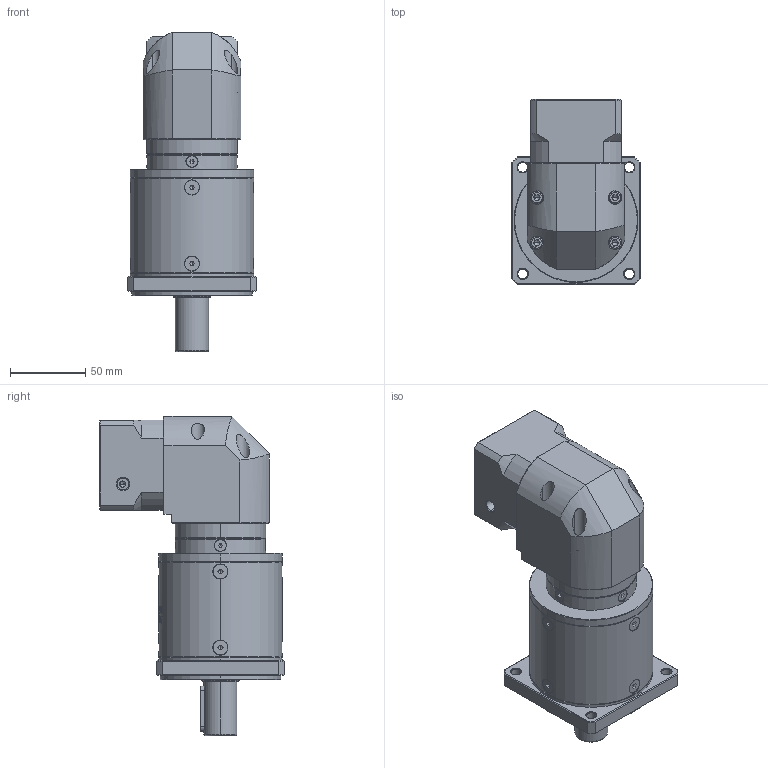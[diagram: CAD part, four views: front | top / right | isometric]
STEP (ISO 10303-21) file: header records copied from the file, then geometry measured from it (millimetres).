
FILE_DESCRIPTION (( 'STEP AP214' ), '1' );
FILE_NAME ('ZFR080-D22-L3-P2-14-50-70-M5.step', '2023-08-25T07:22:32', ( '' ), ( '' ), 'SwSTEP 2.0', 'SolidWorks 2016', '' );
FILE_SCHEMA (( 'AUTOMOTIVE_DESIGN' ));
Length unit declared in the file: millimetre
Products named in the file (1): ZFR080-D22-L3-P2-14-50-70-M5
Bounding box: 85 x 122.7 x 212 mm (x, y, z)
Volume: 890048.3 mm3; surface area: 107446.3 mm2
Topology: 17 solids, 18 shells, 2449 faces, 6385 edges, 4051 vertices
Faces by surface type: plane 1176, cylinder 450, bspline 406, cone 381, torus 36
Entity records: 127340 total; most frequent: CARTESIAN_POINT 45224, ORIENTED_EDGE 12678, DIRECTION 9783, EDGE_CURVE 6339, VERTEX_POINT 4051, VECTOR 3375, LINE 3375, AXIS2_PLACEMENT_3D 3204
